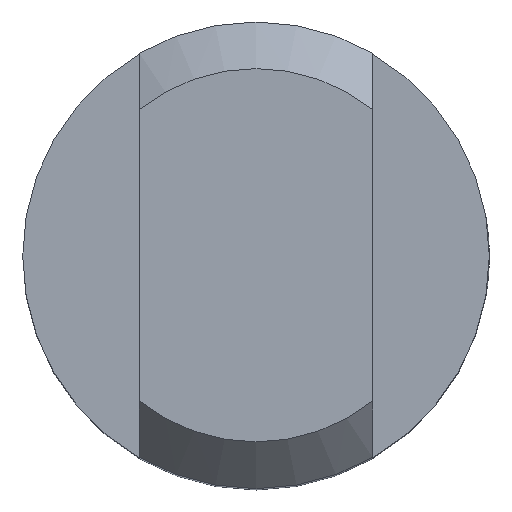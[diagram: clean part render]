
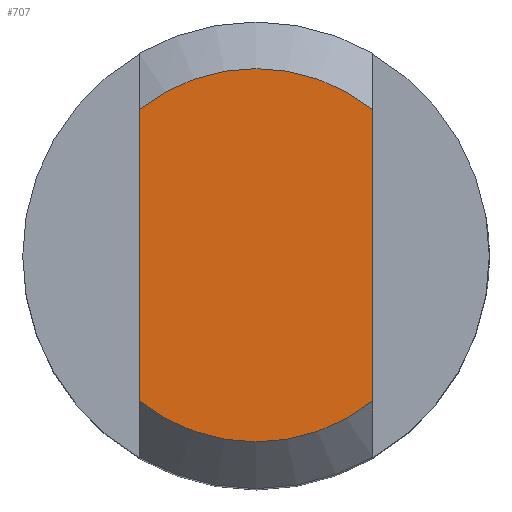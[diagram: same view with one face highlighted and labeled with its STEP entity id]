
A CAD part, top view. The second image highlights one B-rep face of the part: STEP entity #707.
In plain terms, the highlighted planar face has unit normal (0, 0, 1).
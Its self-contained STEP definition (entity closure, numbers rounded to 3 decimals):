
#7 = CARTESIAN_POINT ( 'NONE',  ( 7.5, 12.5, 201. ) ) ;
#22 = ORIENTED_EDGE ( 'NONE', *, *, #247, .F. ) ;
#61 = FACE_OUTER_BOUND ( 'NONE', #586, .T. ) ;
#75 = DIRECTION ( 'NONE',  ( 1., 0., 0. ) ) ;
#84 = CARTESIAN_POINT ( 'NONE',  ( -7.5, -12.5, 201. ) ) ;
#93 = VERTEX_POINT ( 'NONE', #393 ) ;
#113 = VERTEX_POINT ( 'NONE', #636 ) ;
#126 = CIRCLE ( 'NONE', #600, 12. ) ;
#127 = AXIS2_PLACEMENT_3D ( 'NONE', #471, #346, #139 ) ;
#139 = DIRECTION ( 'NONE',  ( 0., 1., 0. ) ) ;
#197 = CARTESIAN_POINT ( 'NONE',  ( 0., 0., 201. ) ) ;
#231 = ORIENTED_EDGE ( 'NONE', *, *, #666, .T. ) ;
#241 = ORIENTED_EDGE ( 'NONE', *, *, #843, .T. ) ;
#247 = EDGE_CURVE ( 'NONE', #481, #333, #126, .T. ) ;
#266 = DIRECTION ( 'NONE',  ( 0., 1., 0. ) ) ;
#286 = DIRECTION ( 'NONE',  ( 0., -1., 0. ) ) ;
#333 = VERTEX_POINT ( 'NONE', #746 ) ;
#346 = DIRECTION ( 'NONE',  ( 0., 0., -1. ) ) ;
#393 = CARTESIAN_POINT ( 'NONE',  ( 7.5, 9.367, 201. ) ) ;
#410 = DIRECTION ( 'NONE',  ( 0., 0., -1. ) ) ;
#418 = VECTOR ( 'NONE', #266, 1000. ) ;
#467 = DIRECTION ( 'NONE',  ( 0., 0., -1. ) ) ;
#471 = CARTESIAN_POINT ( 'NONE',  ( 0., 0., 201. ) ) ;
#479 = CARTESIAN_POINT ( 'NONE',  ( 0., 0., 201. ) ) ;
#481 = VERTEX_POINT ( 'NONE', #646 ) ;
#586 = EDGE_LOOP ( 'NONE', ( #22, #231, #620, #241 ) ) ;
#590 = PLANE ( 'NONE',  #127 ) ;
#600 = AXIS2_PLACEMENT_3D ( 'NONE', #197, #467, #725 ) ;
#605 = VECTOR ( 'NONE', #286, 1000. ) ;
#617 = LINE ( 'NONE', #84, #605 ) ;
#620 = ORIENTED_EDGE ( 'NONE', *, *, #723, .F. ) ;
#636 = CARTESIAN_POINT ( 'NONE',  ( -7.5, 9.367, 201. ) ) ;
#646 = CARTESIAN_POINT ( 'NONE',  ( 7.5, -9.367, 201. ) ) ;
#666 = EDGE_CURVE ( 'NONE', #481, #93, #791, .T. ) ;
#673 = CIRCLE ( 'NONE', #811, 12. ) ;
#707 = ADVANCED_FACE ( 'NONE', ( #61 ), #590, .F. ) ;
#723 = EDGE_CURVE ( 'NONE', #113, #93, #673, .T. ) ;
#725 = DIRECTION ( 'NONE',  ( 1., 0., 0. ) ) ;
#746 = CARTESIAN_POINT ( 'NONE',  ( -7.5, -9.367, 201. ) ) ;
#791 = LINE ( 'NONE', #7, #418 ) ;
#811 = AXIS2_PLACEMENT_3D ( 'NONE', #479, #410, #75 ) ;
#843 = EDGE_CURVE ( 'NONE', #113, #333, #617, .T. ) ;
